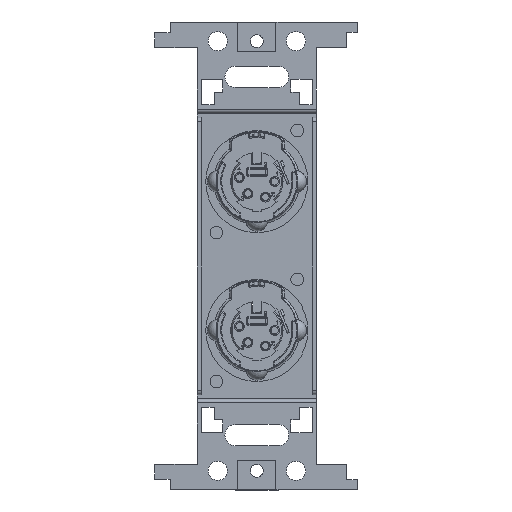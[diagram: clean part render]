
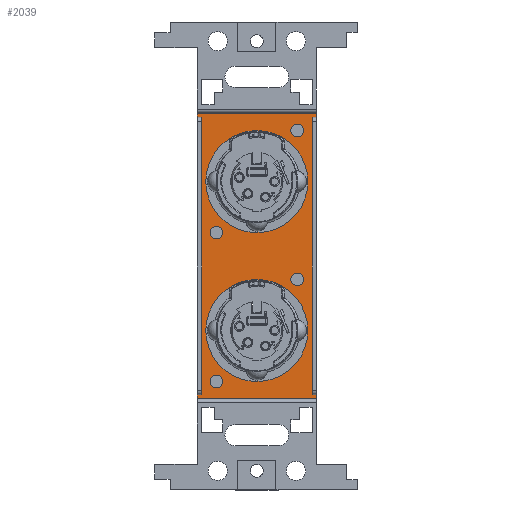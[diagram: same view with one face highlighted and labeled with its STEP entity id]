
A CAD part, top view. The second image highlights one B-rep face of the part: STEP entity #2039.
In plain terms, the highlighted planar face has unit normal (0, 0, 1).
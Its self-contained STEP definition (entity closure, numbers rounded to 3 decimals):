
#1782 = VERTEX_POINT('',#1783);
#1783 = CARTESIAN_POINT('',(-14.,33.5,1.));
#1916 = VERTEX_POINT('',#1917);
#1917 = CARTESIAN_POINT('',(-14.,-33.5,1.));
#1923 = EDGE_CURVE('',#1924,#1916,#1926,.T.);
#1924 = VERTEX_POINT('',#1925);
#1925 = CARTESIAN_POINT('',(-14.,-32.6,1.));
#1926 = LINE('',#1927,#1928);
#1927 = CARTESIAN_POINT('',(-14.,34.5,1.));
#1928 = VECTOR('',#1929,1.);
#1929 = DIRECTION('',(0.,-1.,0.));
#1966 = VERTEX_POINT('',#1967);
#1967 = CARTESIAN_POINT('',(-14.,32.6,1.));
#1973 = EDGE_CURVE('',#1782,#1966,#1974,.T.);
#1974 = LINE('',#1975,#1976);
#1975 = CARTESIAN_POINT('',(-14.,34.5,1.));
#1976 = VECTOR('',#1977,1.);
#1977 = DIRECTION('',(0.,-1.,0.));
#1997 = VERTEX_POINT('',#1998);
#1998 = CARTESIAN_POINT('',(14.,33.5,1.));
#2004 = EDGE_CURVE('',#1782,#1997,#2005,.T.);
#2005 = LINE('',#2006,#2007);
#2006 = CARTESIAN_POINT('',(-14.,33.5,1.));
#2007 = VECTOR('',#2008,1.);
#2008 = DIRECTION('',(1.,0.,0.));
#2039 = ADVANCED_FACE('',(#2040,#2113,#2124,#2135,#2146,#2157,#2168),
  #2179,.T.);
#2040 = FACE_BOUND('',#2041,.T.);
#2041 = EDGE_LOOP('',(#2042,#2050,#2051,#2059,#2067,#2075,#2083,#2091,
    #2097,#2098,#2099,#2107));
#2042 = ORIENTED_EDGE('',*,*,#2043,.F.);
#2043 = EDGE_CURVE('',#1924,#2044,#2046,.T.);
#2044 = VERTEX_POINT('',#2045);
#2045 = CARTESIAN_POINT('',(-13.,-32.6,1.));
#2046 = LINE('',#2047,#2048);
#2047 = CARTESIAN_POINT('',(-14.,-32.6,1.));
#2048 = VECTOR('',#2049,1.);
#2049 = DIRECTION('',(1.,0.,0.));
#2050 = ORIENTED_EDGE('',*,*,#1923,.T.);
#2051 = ORIENTED_EDGE('',*,*,#2052,.F.);
#2052 = EDGE_CURVE('',#2053,#1916,#2055,.T.);
#2053 = VERTEX_POINT('',#2054);
#2054 = CARTESIAN_POINT('',(14.,-33.5,1.));
#2055 = LINE('',#2056,#2057);
#2056 = CARTESIAN_POINT('',(14.,-33.5,1.));
#2057 = VECTOR('',#2058,1.);
#2058 = DIRECTION('',(-1.,0.,0.));
#2059 = ORIENTED_EDGE('',*,*,#2060,.T.);
#2060 = EDGE_CURVE('',#2053,#2061,#2063,.T.);
#2061 = VERTEX_POINT('',#2062);
#2062 = CARTESIAN_POINT('',(14.,-32.6,1.));
#2063 = LINE('',#2064,#2065);
#2064 = CARTESIAN_POINT('',(14.,-34.5,1.));
#2065 = VECTOR('',#2066,1.);
#2066 = DIRECTION('',(0.,1.,0.));
#2067 = ORIENTED_EDGE('',*,*,#2068,.F.);
#2068 = EDGE_CURVE('',#2069,#2061,#2071,.T.);
#2069 = VERTEX_POINT('',#2070);
#2070 = CARTESIAN_POINT('',(13.,-32.6,1.));
#2071 = LINE('',#2072,#2073);
#2072 = CARTESIAN_POINT('',(13.,-32.6,1.));
#2073 = VECTOR('',#2074,1.);
#2074 = DIRECTION('',(1.,0.,0.));
#2075 = ORIENTED_EDGE('',*,*,#2076,.F.);
#2076 = EDGE_CURVE('',#2077,#2069,#2079,.T.);
#2077 = VERTEX_POINT('',#2078);
#2078 = CARTESIAN_POINT('',(13.,32.6,1.));
#2079 = LINE('',#2080,#2081);
#2080 = CARTESIAN_POINT('',(13.,32.6,1.));
#2081 = VECTOR('',#2082,1.);
#2082 = DIRECTION('',(0.,-1.,0.));
#2083 = ORIENTED_EDGE('',*,*,#2084,.F.);
#2084 = EDGE_CURVE('',#2085,#2077,#2087,.T.);
#2085 = VERTEX_POINT('',#2086);
#2086 = CARTESIAN_POINT('',(14.,32.6,1.));
#2087 = LINE('',#2088,#2089);
#2088 = CARTESIAN_POINT('',(14.,32.6,1.));
#2089 = VECTOR('',#2090,1.);
#2090 = DIRECTION('',(-1.,0.,0.));
#2091 = ORIENTED_EDGE('',*,*,#2092,.T.);
#2092 = EDGE_CURVE('',#2085,#1997,#2093,.T.);
#2093 = LINE('',#2094,#2095);
#2094 = CARTESIAN_POINT('',(14.,-34.5,1.));
#2095 = VECTOR('',#2096,1.);
#2096 = DIRECTION('',(0.,1.,0.));
#2097 = ORIENTED_EDGE('',*,*,#2004,.F.);
#2098 = ORIENTED_EDGE('',*,*,#1973,.T.);
#2099 = ORIENTED_EDGE('',*,*,#2100,.F.);
#2100 = EDGE_CURVE('',#2101,#1966,#2103,.T.);
#2101 = VERTEX_POINT('',#2102);
#2102 = CARTESIAN_POINT('',(-13.,32.6,1.));
#2103 = LINE('',#2104,#2105);
#2104 = CARTESIAN_POINT('',(-13.,32.6,1.));
#2105 = VECTOR('',#2106,1.);
#2106 = DIRECTION('',(-1.,0.,0.));
#2107 = ORIENTED_EDGE('',*,*,#2108,.F.);
#2108 = EDGE_CURVE('',#2044,#2101,#2109,.T.);
#2109 = LINE('',#2110,#2111);
#2110 = CARTESIAN_POINT('',(-13.,-32.6,1.));
#2111 = VECTOR('',#2112,1.);
#2112 = DIRECTION('',(0.,1.,0.));
#2113 = FACE_BOUND('',#2114,.T.);
#2114 = EDGE_LOOP('',(#2115));
#2115 = ORIENTED_EDGE('',*,*,#2116,.T.);
#2116 = EDGE_CURVE('',#2117,#2117,#2119,.T.);
#2117 = VERTEX_POINT('',#2118);
#2118 = CARTESIAN_POINT('',(-8.5,-29.5,1.));
#2119 = CIRCLE('',#2120,1.);
#2120 = AXIS2_PLACEMENT_3D('',#2121,#2122,#2123);
#2121 = CARTESIAN_POINT('',(-9.5,-29.5,1.));
#2122 = DIRECTION('',(0.,0.,-1.));
#2123 = DIRECTION('',(1.,0.,0.));
#2124 = FACE_BOUND('',#2125,.T.);
#2125 = EDGE_LOOP('',(#2126));
#2126 = ORIENTED_EDGE('',*,*,#2127,.T.);
#2127 = EDGE_CURVE('',#2128,#2128,#2130,.T.);
#2128 = VERTEX_POINT('',#2129);
#2129 = CARTESIAN_POINT('',(12.,-17.5,1.));
#2130 = CIRCLE('',#2131,12.);
#2131 = AXIS2_PLACEMENT_3D('',#2132,#2133,#2134);
#2132 = CARTESIAN_POINT('',(0.,-17.5,1.));
#2133 = DIRECTION('',(0.,0.,-1.));
#2134 = DIRECTION('',(1.,0.,0.));
#2135 = FACE_BOUND('',#2136,.T.);
#2136 = EDGE_LOOP('',(#2137));
#2137 = ORIENTED_EDGE('',*,*,#2138,.T.);
#2138 = EDGE_CURVE('',#2139,#2139,#2141,.T.);
#2139 = VERTEX_POINT('',#2140);
#2140 = CARTESIAN_POINT('',(10.5,-5.5,1.));
#2141 = CIRCLE('',#2142,1.);
#2142 = AXIS2_PLACEMENT_3D('',#2143,#2144,#2145);
#2143 = CARTESIAN_POINT('',(9.5,-5.5,1.));
#2144 = DIRECTION('',(0.,0.,-1.));
#2145 = DIRECTION('',(1.,0.,0.));
#2146 = FACE_BOUND('',#2147,.T.);
#2147 = EDGE_LOOP('',(#2148));
#2148 = ORIENTED_EDGE('',*,*,#2149,.T.);
#2149 = EDGE_CURVE('',#2150,#2150,#2152,.T.);
#2150 = VERTEX_POINT('',#2151);
#2151 = CARTESIAN_POINT('',(-8.5,5.5,1.));
#2152 = CIRCLE('',#2153,1.);
#2153 = AXIS2_PLACEMENT_3D('',#2154,#2155,#2156);
#2154 = CARTESIAN_POINT('',(-9.5,5.5,1.));
#2155 = DIRECTION('',(0.,0.,-1.));
#2156 = DIRECTION('',(1.,0.,0.));
#2157 = FACE_BOUND('',#2158,.T.);
#2158 = EDGE_LOOP('',(#2159));
#2159 = ORIENTED_EDGE('',*,*,#2160,.T.);
#2160 = EDGE_CURVE('',#2161,#2161,#2163,.T.);
#2161 = VERTEX_POINT('',#2162);
#2162 = CARTESIAN_POINT('',(12.,17.5,1.));
#2163 = CIRCLE('',#2164,12.);
#2164 = AXIS2_PLACEMENT_3D('',#2165,#2166,#2167);
#2165 = CARTESIAN_POINT('',(0.,17.5,1.));
#2166 = DIRECTION('',(0.,0.,-1.));
#2167 = DIRECTION('',(1.,0.,0.));
#2168 = FACE_BOUND('',#2169,.T.);
#2169 = EDGE_LOOP('',(#2170));
#2170 = ORIENTED_EDGE('',*,*,#2171,.T.);
#2171 = EDGE_CURVE('',#2172,#2172,#2174,.T.);
#2172 = VERTEX_POINT('',#2173);
#2173 = CARTESIAN_POINT('',(10.5,29.5,1.));
#2174 = CIRCLE('',#2175,1.);
#2175 = AXIS2_PLACEMENT_3D('',#2176,#2177,#2178);
#2176 = CARTESIAN_POINT('',(9.5,29.5,1.));
#2177 = DIRECTION('',(0.,0.,-1.));
#2178 = DIRECTION('',(1.,0.,0.));
#2179 = PLANE('',#2180);
#2180 = AXIS2_PLACEMENT_3D('',#2181,#2182,#2183);
#2181 = CARTESIAN_POINT('',(0.,0.,1.));
#2182 = DIRECTION('',(0.,0.,1.));
#2183 = DIRECTION('',(1.,0.,-0.));
